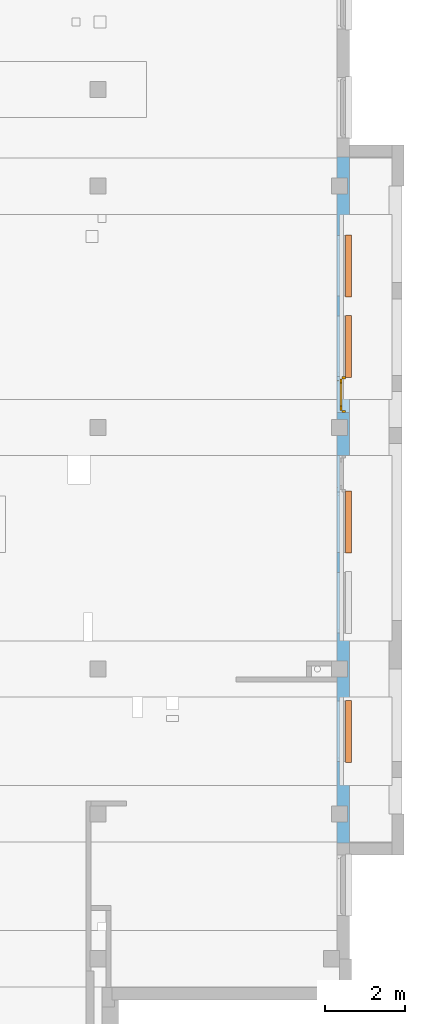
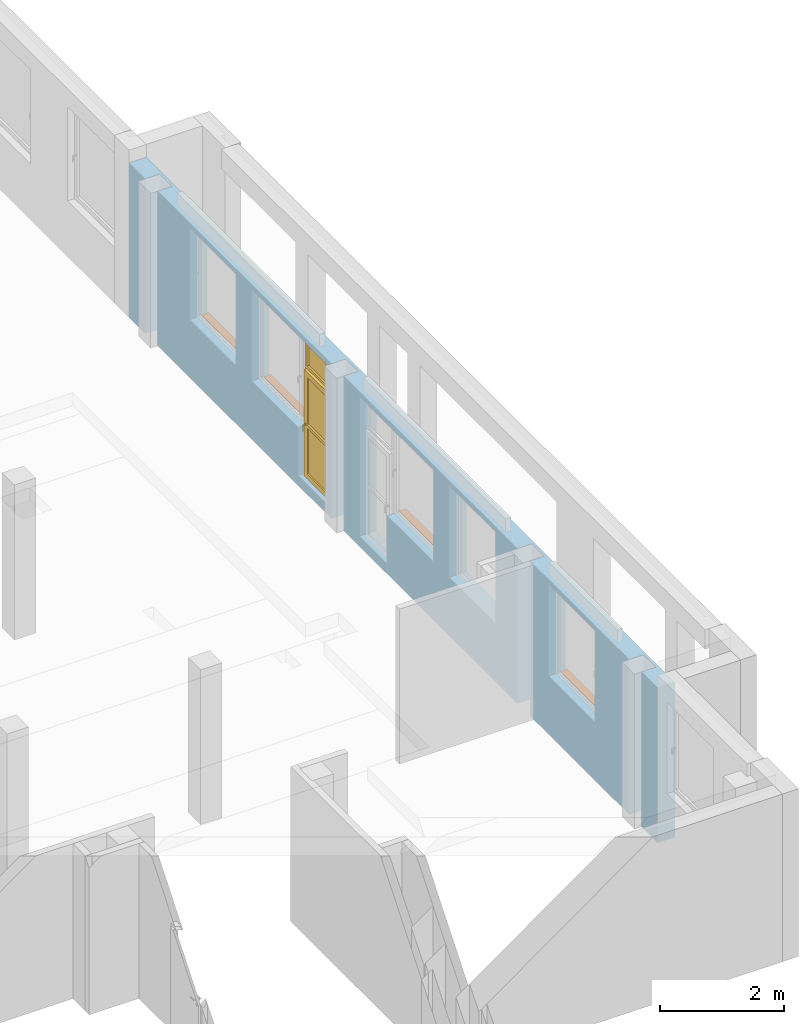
# One storey, part 19 of 27: 4 proxies, 1 door, 7 openings, plus 1 element that does not belong to this part.
"""IFC4 building model written with IfcOpenShell, lengths in metres."""

import ifcopenshell
import ifcopenshell.guid

model = None  # the IFC model being written
_history = None  # IfcOwnerHistory: only IFC2X3 demands one
_inside = {}  # id of a spatial element -> (the spatial element, [elements in it])
_under = {}  # id of a project, library or spatial element -> (it, [spatial elements below it])
_declared = {}  # id of a project -> (the project, [libraries it declares])
_typed = {}  # id of a type object -> (the type object, [elements of that type])
_made_of = {}  # id of a material, layer set ... -> (it, [elements and type objects made of it])


def new_model(schema):
    """Start an empty IFC model of exactly this schema.

    Asked for "IFC4X3", IfcOpenShell would pick the latest addendum, in which some entities
    have other attributes; the version numbers below select the first issue.
    IFC2X3 requires an IfcOwnerHistory on every rooted entity: one is made here for all.
    """
    global model, _history
    if schema == "IFC4X3":
        model = ifcopenshell.file(schema_version=(4, 3, 0, 0))
    else:
        model = ifcopenshell.file(schema=schema)
    _inside.clear()
    _under.clear()
    _declared.clear()
    _typed.clear()
    _made_of.clear()
    _history = None
    if model.schema == "IFC2X3":
        org = make("IfcOrganization", Name="unknown")
        user = make(
            "IfcPersonAndOrganization",
            ThePerson=make("IfcPerson", FamilyName="unknown"),
            TheOrganization=org,
        )
        app = make(
            "IfcApplication",
            ApplicationDeveloper=org,
            Version="unknown",
            ApplicationFullName="unknown",
            ApplicationIdentifier="unknown",
        )
        _history = make(
            "IfcOwnerHistory",
            OwningUser=user,
            OwningApplication=app,
            ChangeAction="ADDED",
            CreationDate=0,
        )
    return model


def make(cls, **values):
    """One entity of the class cls with the attributes given. An attribute that is None is left unset."""
    return model.create_entity(
        cls, **{name: value for name, value in values.items() if value is not None}
    )


def entity(cls, *values):
    """Any entity or typed value of the class cls, its attributes in the order of the schema. None: left unset."""
    e = model.create_entity(cls)
    for i, value in enumerate(values):
        if value is not None:
            e[i] = value
    return e


def rooted(cls, **values):
    """An entity with a GlobalId (a new one), such as an element, a storey or a relation."""
    return make(cls, GlobalId=ifcopenshell.guid.new(), OwnerHistory=_history, **values)


def si_unit(unit_type, name, prefix=None):
    """IfcSIUnit, for example si_unit("LENGTHUNIT", "METRE", prefix="MILLI")."""
    return make("IfcSIUnit", UnitType=unit_type, Prefix=prefix, Name=name)


def converted_unit(unit_type, name, factor, base, dimensions=None, offset=None):
    """IfcConversionBasedUnit, such as the inch: factor (a typed value) times the base unit."""
    return make(
        "IfcConversionBasedUnit"
        if offset is None
        else "IfcConversionBasedUnitWithOffset",
        ConversionOffset=offset,
        Dimensions=None
        if dimensions is None
        else entity("IfcDimensionalExponents", *dimensions),
        UnitType=unit_type,
        Name=name,
        ConversionFactor=make(
            "IfcMeasureWithUnit", ValueComponent=factor, UnitComponent=base
        ),
    )


def derived_unit(unit_type, elements):
    """IfcDerivedUnit: a product of units, each with its exponent."""
    return make(
        "IfcDerivedUnit",
        Elements=[
            make("IfcDerivedUnitElement", Unit=unit, Exponent=power)
            for unit, power in elements
        ],
        UnitType=unit_type,
    )


def assignment(units):
    """IfcUnitAssignment: the units of a project."""
    return None if units is None else make("IfcUnitAssignment", Units=units)


def point(xyz):
    """IfcCartesianPoint."""
    return None if xyz is None else make("IfcCartesianPoint", Coordinates=xyz)


def direction(xyz):
    """IfcDirection."""
    return None if xyz is None else make("IfcDirection", DirectionRatios=xyz)


def frame(location, z_axis=None, x_axis=None):
    """IfcAxis2Placement3D, a coordinate frame: its origin and axes. An axis left out is left unset."""
    return make(
        "IfcAxis2Placement3D",
        Location=point(location),
        Axis=direction(z_axis),
        RefDirection=direction(x_axis),
    )


def origin():
    """The frame at (0, 0, 0) with its axes left unset."""
    return frame((0.0, 0.0, 0.0))


def origin_with_axes():
    """The frame at (0, 0, 0) with the z axis (0, 0, 1) and the x axis (1, 0, 0) written out."""
    return frame((0.0, 0.0, 0.0), z_axis=(0.0, 0.0, 1.0), x_axis=(1.0, 0.0, 0.0))


def place(relative_to, where):
    """IfcLocalPlacement: puts the frame where relative to a parent placement (None: the world)."""
    return make(
        "IfcLocalPlacement", PlacementRelTo=relative_to, RelativePlacement=where
    )


def context(
    kind, dimensions, precision=None, world=None, true_north=None, identifier=None
):
    """IfcGeometricRepresentationContext, for example the 3D "Model" context."""
    return make(
        "IfcGeometricRepresentationContext",
        ContextIdentifier=identifier,
        ContextType=kind,
        CoordinateSpaceDimension=dimensions,
        Precision=precision,
        WorldCoordinateSystem=world,
        TrueNorth=true_north,
    )


def subcontext(parent, identifier, kind, view, scale=None):
    """IfcGeometricRepresentationSubContext, for example "Body" below "Model"."""
    return make(
        "IfcGeometricRepresentationSubContext",
        ContextIdentifier=identifier,
        ContextType=kind,
        ParentContext=parent,
        TargetScale=scale,
        TargetView=view,
    )


def project(units=None, contexts=None):
    """IfcProject with its units and contexts."""
    return rooted(
        "IfcProject",
        Name="project",
        RepresentationContexts=contexts,
        UnitsInContext=assignment(units),
    )


def spatial(cls, under=None, at=None, **own):
    """A site, building, storey or space (cls), placed at a placement, below another one or the project."""
    s = rooted(cls, ObjectPlacement=at, **own)
    if under is not None:
        _under.setdefault(under.id(), (under, []))[1].append(s)
    return s


def polyline(points):
    """IfcPolyline through the points."""
    return make("IfcPolyline", Points=[point(p) for p in points])


def outline(outer, holes=None, kind="AREA"):
    """IfcArbitraryClosedProfileDef: a profile drawn as a closed curve; with holes, ...WithVoids."""
    if holes is None:
        return make("IfcArbitraryClosedProfileDef", ProfileType=kind, OuterCurve=outer)
    return make(
        "IfcArbitraryProfileDefWithVoids",
        ProfileType=kind,
        OuterCurve=outer,
        InnerCurves=holes,
    )


def extrude(swept, where, along, depth):
    """IfcExtrudedAreaSolid: the profile swept, set in the frame where, extruded along a direction by depth."""
    return make(
        "IfcExtrudedAreaSolid",
        SweptArea=swept,
        Position=where,
        ExtrudedDirection=direction(along),
        Depth=depth,
    )


def faces_of(points, faces, orient=None, outer=None):
    """IfcFace entities. A face is a list of loops; a loop is a list of indices into points, from 0.

    orient and outer hold one flag for each loop. By default every Orientation is true, the
    first loop of a face is its IfcFaceOuterBound and the others are IfcFaceBound.
    """
    made = []
    for i, loops in enumerate(faces):
        bounds = []
        for j, loop in enumerate(loops):
            is_outer = j == 0 if outer is None else outer[i][j]
            bounds.append(
                make(
                    "IfcFaceOuterBound" if is_outer else "IfcFaceBound",
                    Bound=make("IfcPolyLoop", Polygon=[points[k] for k in loop]),
                    Orientation=True if orient is None else orient[i][j],
                )
            )
        made.append(make("IfcFace", Bounds=bounds))
    return made


def closed_shell(faces, orient=None, outer=None):
    """The faces of one IfcClosedShell. faceted_brep and surface_model build it on their shared points."""
    return ("IfcClosedShell", faces, orient, outer)


def open_shell(faces, orient=None, outer=None):
    """The faces of one IfcOpenShell. surface_model builds it on its shared points."""
    return ("IfcOpenShell", faces, orient, outer)


def faceted_brep(points, faces, orient=None, outer=None, voids=None):
    """IfcFacetedBrep: a solid bounded by flat faces; with voids (closed shells), ...WithVoids."""
    shared = [point(p) for p in points]
    hull = make("IfcClosedShell", CfsFaces=faces_of(shared, faces, orient, outer))
    if voids is None:
        return make("IfcFacetedBrep", Outer=hull)
    return make(
        "IfcFacetedBrepWithVoids",
        Outer=hull,
        Voids=[
            make(cls, CfsFaces=faces_of(shared, fs, o, b)) for cls, fs, o, b in voids
        ],
    )


def surface_model(cls, points, shells):
    """IfcFaceBasedSurfaceModel or IfcShellBasedSurfaceModel (cls): surfaces that need not close."""
    shared = [point(p) for p in points]
    made = [make(c, CfsFaces=faces_of(shared, fs, o, b)) for c, fs, o, b in shells]
    if cls == "IfcFaceBasedSurfaceModel":
        return make(cls, FbsmFaces=made)
    return make(cls, SbsmBoundary=made)


def shape(context_of_items, identifier, shape_type, items):
    """IfcShapeRepresentation: the items that make up one representation, for example the "Body"."""
    return make(
        "IfcShapeRepresentation",
        ContextOfItems=context_of_items,
        RepresentationIdentifier=identifier,
        RepresentationType=shape_type,
        Items=items,
    )


def source(mapping_origin, context_of_items, identifier, shape_type, items):
    """IfcRepresentationMap: a shape defined once, which mapped items show again and again."""
    return make(
        "IfcRepresentationMap",
        MappingOrigin=mapping_origin,
        MappedRepresentation=shape(context_of_items, identifier, shape_type, items),
    )


def transform(
    local_origin,
    x_axis=None,
    y_axis=None,
    z_axis=None,
    scale=None,
    scale2=None,
    scale3=None,
    uniform=True,
):
    """IfcCartesianTransformationOperator3D, or its non-uniform kind. x_axis, y_axis, z_axis: its Axis1, 2, 3."""
    if uniform:
        return make(
            "IfcCartesianTransformationOperator3D",
            Axis1=direction(x_axis),
            Axis2=direction(y_axis),
            LocalOrigin=point(local_origin),
            Scale=scale,
            Axis3=direction(z_axis),
        )
    return make(
        "IfcCartesianTransformationOperator3DnonUniform",
        Axis1=direction(x_axis),
        Axis2=direction(y_axis),
        LocalOrigin=point(local_origin),
        Scale=scale,
        Axis3=direction(z_axis),
        Scale2=scale2,
        Scale3=scale3,
    )


def mapped(mapping_source, mapping_target):
    """IfcMappedItem: shows the shape of a source again, moved by a transform."""
    return make(
        "IfcMappedItem", MappingSource=mapping_source, MappingTarget=mapping_target
    )


def material(Name=None, Category=None):
    """IfcMaterial."""
    return make("IfcMaterial", Name=Name, Category=Category)


def layer(
    of_material, thickness, ventilated=None, Name=None, Category=None, Priority=None
):
    """IfcMaterialLayer: one layer of a wall or slab, of a material (None: an air gap)."""
    return make(
        "IfcMaterialLayer",
        Material=of_material,
        LayerThickness=thickness,
        IsVentilated=ventilated,
        Name=Name,
        Category=Category,
        Priority=Priority,
    )


def layer_set(layers, Name=None):
    """IfcMaterialLayerSet."""
    return make("IfcMaterialLayerSet", MaterialLayers=layers, LayerSetName=Name)


def layer_usage(for_layer_set, set_direction, sense, offset, extent=None):
    """IfcMaterialLayerSetUsage: how a layer set lies in its element."""
    return make(
        "IfcMaterialLayerSetUsage",
        ForLayerSet=for_layer_set,
        LayerSetDirection=set_direction,
        DirectionSense=sense,
        OffsetFromReferenceLine=offset,
        ReferenceExtent=extent,
    )


def made_of(thing, what):
    """Note that an element or type object is made of a material, layer set ...; save() writes the relation."""
    if what is not None:
        _made_of.setdefault(what.id(), (what, []))[1].append(thing)
    return thing


def type_object(cls, material=None, **own):
    """A type object (cls), such as IfcWallType, which elements share."""
    return made_of(rooted(cls, **own), material)


def element(
    cls,
    number,
    at=None,
    inside=None,
    cuts=None,
    type_object=None,
    material=None,
    context=None,
    identifier="Body",
    shape_type=None,
    held_by="IfcProductDefinitionShape",
    body=None,
    shapes=None,
    **own,
):
    """One element of the class cls, such as IfcWall. Its Tag is "e" and its number.

    at: its placement. inside: the storey or other place that contains it. cuts: it is an
    opening in that element (IfcRelVoidsElement). A single representation is given by context,
    identifier, shape_type and body (its items); several are given by shapes. held_by: the class
    of the entity that holds the representations. save() writes the other relations.
    """
    e = rooted(cls, Tag="e%d" % number, ObjectPlacement=at, **own)
    if body is not None:
        shapes = [shape(context, identifier, shape_type, body)]
    if shapes is not None:
        e.Representation = make(held_by, Representations=shapes)
    if inside is not None:
        _inside.setdefault(inside.id(), (inside, []))[1].append(e)
    if cuts is not None:
        rooted(
            "IfcRelVoidsElement", RelatingBuildingElement=cuts, RelatedOpeningElement=e
        )
    if type_object is not None:
        _typed.setdefault(type_object.id(), (type_object, []))[1].append(e)
    return made_of(e, material)


def fill(opening, filler):
    """IfcRelFillsElement: the door or window that sits in an opening."""
    return rooted(
        "IfcRelFillsElement",
        RelatingOpeningElement=opening,
        RelatedBuildingElement=filler,
    )


def aggregate(whole, parts):
    """IfcRelAggregates: a whole, such as a stair, and the parts it consists of."""
    return rooted("IfcRelAggregates", RelatingObject=whole, RelatedObjects=parts)


def save(model, path):
    """Write the relations noted so far, then the file.

    IfcRelAggregates (storeys below a building ...), IfcRelContainedInSpatialStructure (elements
    in a storey), IfcRelDefinesByType, IfcRelAssociatesMaterial and IfcRelDeclares: one each for
    every whole, place, type object, material and project.
    """
    for whole, parts in _under.values():
        aggregate(whole, parts)
    for where, things in _inside.values():
        rooted(
            "IfcRelContainedInSpatialStructure",
            RelatedElements=things,
            RelatingStructure=where,
        )
    for kind, things in _typed.values():
        rooted("IfcRelDefinesByType", RelatedObjects=things, RelatingType=kind)
    for what, things in _made_of.values():
        rooted("IfcRelAssociatesMaterial", RelatedObjects=things, RelatingMaterial=what)
    for by, libraries in _declared.values():
        rooted("IfcRelDeclares", RelatingContext=by, RelatedDefinitions=libraries)
    model.write(path)


model = new_model("IFC4")

# Units and contexts
model_context = context("Model", 3, precision=1e-05, world=origin())
body_context = subcontext(model_context, "Body", "Model", "MODEL_VIEW")
ifc_project = project(units=[si_unit("LENGTHUNIT", "METRE"), si_unit("AREAUNIT", "SQUARE_METRE"), si_unit("VOLUMEUNIT", "CUBIC_METRE"), si_unit("MASSUNIT", "GRAM", prefix="KILO"), converted_unit("PLANEANGLEUNIT", "DEGREE", entity("IfcPlaneAngleMeasure", 0.0174532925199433), si_unit("PLANEANGLEUNIT", "RADIAN"), dimensions=[0, 0, 0, 0, 0, 0, 0]), derived_unit("THERMALTRANSMITTANCEUNIT", [(si_unit("POWERUNIT", "WATT"), 1), (si_unit("THERMODYNAMICTEMPERATUREUNIT", "KELVIN"), -1), (si_unit("LENGTHUNIT", "METRE"), -2)]), derived_unit("VOLUMETRICFLOWRATEUNIT", [(si_unit("LENGTHUNIT", "METRE"), 3), (converted_unit("TIMEUNIT", "hour", entity("IfcTimeMeasure", 3600.0), si_unit("TIMEUNIT", "SECOND"), dimensions=[0, 0, 1, 0, 0, 0, 0]), -1), (si_unit("LENGTHUNIT", "METRE"), -1)])], contexts=[model_context])

# Site, building, storey
site_placement = place(None, origin())
site = spatial("IfcSite", under=ifc_project, at=site_placement, Name="3. ASŘ", CompositionType="ELEMENT")
building_placement = place(site_placement, origin())
building = spatial("IfcBuilding", under=site, at=building_placement, Name="Pavilon C", CompositionType="ELEMENT")
storey_placement = place(building_placement, frame((0.0, 0.0, 10.5)))
storey = spatial("IfcBuildingStorey", under=building, at=storey_placement, Name="Půdorys 4.NP", CompositionType="ELEMENT", Elevation=10.5)

# Wall, openings, door, proxies
ifc_material_1 = material(Name="PLYNOSILIKÁT")
ifc_layer = layer(ifc_material_1, 0.32)
ifc_layer_set = layer_set([ifc_layer])
ifc_layer_usage = layer_usage(ifc_layer_set, "AXIS2", "POSITIVE", 0.0)
wall_placement = place(storey_placement, frame((50.2, 2.88, -0.1), z_axis=(0.0, 0.0, 1.0), x_axis=(0.0, 1.0, 0.0)))
wall = element("IfcWall", 1, at=wall_placement, inside=storey, material=ifc_layer_usage, Name="PLYNOSILIKÁT", context=body_context, shape_type="SweptSolid", body=[
    extrude(outline(polyline([(0.0, -0.32), (17.04, -0.32), (17.04, 0.0), (16.52, 0.0), (16.52, -0.27), (16.12, -0.27), (16.12, 0.0), (10.52, 0.0), (10.52, -0.27), (10.12, -0.27), (10.12, 0.0), (4.52, 0.0), (4.52, -0.27), (4.12, -0.27), (4.12, 0.0), (0.919999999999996, 0.0), (0.919999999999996, -0.27), (0.519999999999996, -0.27), (0.519999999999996, 0.0), (0.0, 0.0), (0.0, -0.32)])), frame((0.0, 0.32, 0.0), z_axis=(0.0, 0.0, 1.0), x_axis=(1.0, 0.0, 0.0)), (0.0, 0.0, 1.0), 3.05),
])
opening_1_placement = place(wall_placement, frame((2.02, 0.0, 1.15), z_axis=(0.0, 1.0, 0.0), x_axis=(0.0, 0.0, 1.0)))
opening_1 = element("IfcOpeningElement", 2, at=opening_1_placement, cuts=wall, Name="Okenní otvor", ObjectType="Opening", context=body_context, shape_type="SweptSolid", body=[
    extrude(outline(polyline([(0.0, 1.5), (1.8, 1.5), (1.8, 0.0), (0.0, 0.0), (0.0, 1.5)])), origin_with_axes(), (0.0, 0.0, 1.0), 0.32),
])
opening_2_placement = place(wall_placement, frame((13.59, 0.0, 1.15), z_axis=(0.0, 1.0, 0.0), x_axis=(0.0, 0.0, 1.0)))
opening_2 = element("IfcOpeningElement", 3, at=opening_2_placement, cuts=wall, Name="Okenní otvor", ObjectType="Opening", context=body_context, shape_type="SweptSolid", body=[
    extrude(outline(polyline([(0.0, 1.5), (1.8, 1.5), (1.8, 0.0), (0.0, 0.0), (0.0, 1.5)])), origin_with_axes(), (0.0, 0.0, 1.0), 0.32),
])
opening_3_placement = place(wall_placement, frame((10.69, 0.0, 0.2), z_axis=(0.0, 1.0, 0.0), x_axis=(0.0, 0.0, 1.0)))
opening_3 = element("IfcOpeningElement", 4, at=opening_3_placement, cuts=wall, Name="Dveřní otvor", ObjectType="Opening", context=body_context, shape_type="SweptSolid", body=[
    extrude(outline(polyline([(0.0, 0.9), (2.75, 0.9), (2.75, 0.0), (0.0, 0.0), (0.0, 0.9)])), origin_with_axes(), (0.0, 0.0, 1.0), 0.32),
])
opening_4_placement = place(wall_placement, frame((11.59, 0.0, 1.15), z_axis=(0.0, 1.0, 0.0), x_axis=(0.0, 0.0, 1.0)))
opening_4 = element("IfcOpeningElement", 5, at=opening_4_placement, cuts=wall, Name="Okenní otvor", ObjectType="Opening", context=body_context, shape_type="SweptSolid", body=[
    extrude(outline(polyline([(0.0, 1.5), (1.8, 1.5), (1.8, 0.0), (0.0, 0.0), (0.0, 1.5)])), origin_with_axes(), (0.0, 0.0, 1.0), 0.32),
])
opening_5_placement = place(wall_placement, frame((7.21999999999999, 0.0, 1.15), z_axis=(0.0, 1.0, 0.0), x_axis=(0.0, 0.0, 1.0)))
opening_5 = element("IfcOpeningElement", 6, at=opening_5_placement, cuts=wall, Name="Okenní otvor", ObjectType="Opening", context=body_context, shape_type="SweptSolid", body=[
    extrude(outline(polyline([(0.0, 1.5), (1.8, 1.5), (1.8, 0.0), (0.0, 0.0), (0.0, 1.5)])), origin_with_axes(), (0.0, 0.0, 1.0), 0.32),
])
opening_6_placement = place(wall_placement, frame((8.71999999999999, 0.0, 0.2), z_axis=(0.0, 1.0, 0.0), x_axis=(0.0, 0.0, 1.0)))
element("IfcOpeningElement", 7, at=opening_6_placement, cuts=wall, Name="Dveřní otvor", ObjectType="Opening", context=body_context, shape_type="SweptSolid", body=[
    extrude(outline(polyline([(0.0, 0.9), (2.75, 0.9), (2.75, 0.0), (0.0, 0.0), (0.0, 0.9)])), origin_with_axes(), (0.0, 0.0, 1.0), 0.32),
])
opening_7_placement = place(wall_placement, frame((5.21999999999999, 0.0, 1.15), z_axis=(0.0, 1.0, 0.0), x_axis=(0.0, 0.0, 1.0)))
element("IfcOpeningElement", 8, at=opening_7_placement, cuts=wall, Name="Okenní otvor", ObjectType="Opening", context=body_context, shape_type="SweptSolid", body=[
    extrude(outline(polyline([(0.0, 1.5), (1.8, 1.5), (1.8, 0.0), (0.0, 0.0), (0.0, 1.5)])), origin_with_axes(), (0.0, 0.0, 1.0), 0.32),
])
door_type = type_object("IfcDoorType", Name="D701", OperationType="NOTDEFINED", ParameterTakesPrecedence=False, PredefinedType="DOOR")
shared_shape_1 = source(origin_with_axes(), body_context, "Body", "SurfaceModel", [
    surface_model("IfcShellBasedSurfaceModel", [(0.0, 0.0920000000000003, 2.75), (0.0, 0.092, 8.57747943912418e-18), (0.06, 0.092, 8.57747943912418e-18), (0.06, 0.0920000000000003, 2.75), (0.0, 0.0, 1.98442299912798e-17), (0.0, 3.41060513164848e-16, 2.75), (0.06, 3.41060513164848e-16, 2.75), (0.06, 0.0, 1.98442299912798e-17)], [closed_shell([[[0, 1, 2, 3]], [[4, 5, 6, 7]], [[1, 0, 5, 4]], [[2, 1, 4, 7]], [[3, 2, 7, 6]], [[0, 3, 6, 5]]], orient=[[False], [False], [False], [False], [False], [False]])]),
    surface_model("IfcShellBasedSurfaceModel", [(0.84, 0.0920000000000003, 2.75), (0.84, 0.092, 8.57747943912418e-18), (0.9, 0.092, 8.57747943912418e-18), (0.9, 0.0920000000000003, 2.75), (0.84, 0.0, 1.98442299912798e-17), (0.84, 3.41060513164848e-16, 2.75), (0.9, 3.41060513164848e-16, 2.75), (0.9, 0.0, 1.98442299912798e-17)], [closed_shell([[[0, 1, 2, 3]], [[4, 5, 6, 7]], [[1, 0, 5, 4]], [[2, 1, 4, 7]], [[3, 2, 7, 6]], [[0, 3, 6, 5]]], orient=[[False], [False], [False], [False], [False], [False]])]),
    surface_model("IfcShellBasedSurfaceModel", [(0.06, 0.0920000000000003, 2.75), (0.06, 0.0920000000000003, 2.69), (0.84, 0.0920000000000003, 2.69), (0.84, 0.0920000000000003, 2.75), (0.06, 3.26849658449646e-16, 2.69), (0.06, 3.41060513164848e-16, 2.75), (0.84, 3.41060513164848e-16, 2.75), (0.84, 3.26849658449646e-16, 2.69)], [closed_shell([[[0, 1, 2, 3]], [[4, 5, 6, 7]], [[1, 0, 5, 4]], [[2, 1, 4, 7]], [[3, 2, 7, 6]], [[0, 3, 6, 5]]], orient=[[False], [False], [False], [False], [False], [False]])]),
    surface_model("IfcShellBasedSurfaceModel", [(0.06, 0.0920000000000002, 2.15), (0.06, 0.0920000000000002, 2.1), (0.84, 0.0920000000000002, 2.1), (0.84, 0.0920000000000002, 2.15), (0.06, 2.55795384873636e-16, 2.1), (0.06, 2.55795384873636e-16, 2.15), (0.84, 2.55795384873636e-16, 2.15), (0.84, 2.55795384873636e-16, 2.1)], [closed_shell([[[0, 1, 2, 3]], [[4, 5, 6, 7]], [[1, 0, 5, 4]], [[2, 1, 4, 7]], [[3, 2, 7, 6]], [[0, 3, 6, 5]]], orient=[[False], [False], [False], [False], [False], [False]])]),
    surface_model("IfcShellBasedSurfaceModel", [(0.06, 0.142, 2.1), (0.06, 0.142, 2.45424544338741e-18), (0.16, 0.142, 2.45424544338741e-18), (0.16, 0.142, 2.1), (0.06, 0.092, 8.57747943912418e-18), (0.06, 0.0920000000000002, 2.1), (0.16, 0.0920000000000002, 2.1), (0.16, 0.092, 8.57747943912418e-18)], [closed_shell([[[0, 1, 2, 3]], [[4, 5, 6, 7]], [[1, 0, 5, 4]], [[2, 1, 4, 7]], [[3, 2, 7, 6]], [[0, 3, 6, 5]]], orient=[[False], [False], [False], [False], [False], [False]])]),
    surface_model("IfcShellBasedSurfaceModel", [(0.74, 0.142, 2.1), (0.74, 0.142, 2.45424544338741e-18), (0.84, 0.142, 2.45424544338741e-18), (0.84, 0.142, 2.1), (0.74, 0.092, 8.57747943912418e-18), (0.74, 0.0920000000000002, 2.1), (0.84, 0.0920000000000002, 2.1), (0.84, 0.092, 8.57747943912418e-18)], [closed_shell([[[0, 1, 2, 3]], [[4, 5, 6, 7]], [[1, 0, 5, 4]], [[2, 1, 4, 7]], [[3, 2, 7, 6]], [[0, 3, 6, 5]]], orient=[[False], [False], [False], [False], [False], [False]])]),
    surface_model("IfcShellBasedSurfaceModel", [(0.16, 0.142, 0.1), (0.16, 0.142, 2.45424544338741e-18), (0.74, 0.142, 2.45424544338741e-18), (0.74, 0.142, 0.1), (0.16, 0.092, 8.57747943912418e-18), (0.16, 0.092, 0.1), (0.74, 0.092, 0.1), (0.74, 0.092, 8.57747943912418e-18)], [closed_shell([[[0, 1, 2, 3]], [[4, 5, 6, 7]], [[1, 0, 5, 4]], [[2, 1, 4, 7]], [[3, 2, 7, 6]], [[0, 3, 6, 5]]], orient=[[False], [False], [False], [False], [False], [False]])]),
    surface_model("IfcShellBasedSurfaceModel", [(0.16, 0.142, 2.1), (0.16, 0.142, 2.0), (0.74, 0.142, 2.0), (0.74, 0.142, 2.1), (0.16, 0.0920000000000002, 2.0), (0.16, 0.0920000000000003, 2.1), (0.74, 0.0920000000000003, 2.1), (0.74, 0.0920000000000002, 2.0)], [closed_shell([[[0, 1, 2, 3]], [[4, 5, 6, 7]], [[1, 0, 5, 4]], [[2, 1, 4, 7]], [[3, 2, 7, 6]], [[0, 3, 6, 5]]], orient=[[False], [False], [False], [False], [False], [False]])]),
    surface_model("IfcShellBasedSurfaceModel", [(0.7775, 0.142, 1.07), (0.8025, 0.142, 1.07), (0.8025, 0.142, 1.03), (0.7775, 0.142, 1.03), (0.7775, 0.152, 1.03), (0.8025, 0.152, 1.03), (0.8025, 0.152, 1.07), (0.7775, 0.152, 1.07)], [closed_shell([[[0, 1, 2, 3]], [[4, 5, 6, 7]], [[3, 4, 7, 0]], [[2, 5, 4, 3]], [[1, 6, 5, 2]], [[0, 7, 6, 1]]], orient=[[False], [False], [False], [False], [False], [False]])]),
    surface_model("IfcShellBasedSurfaceModel", [(0.8, 0.152, 1.05), (0.798660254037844, 0.152, 1.045), (0.795, 0.152, 1.04133974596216), (0.79, 0.152, 1.04), (0.785, 0.152, 1.04133974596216), (0.781339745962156, 0.152, 1.045), (0.78, 0.152, 1.05), (0.781339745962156, 0.152, 1.055), (0.785, 0.152, 1.05866025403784), (0.79, 0.152, 1.06), (0.795, 0.152, 1.05866025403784), (0.798660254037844, 0.152, 1.055), (0.798660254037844, 0.197, 1.055), (0.8, 0.192, 1.05), (0.795, 0.200660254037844, 1.05866025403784), (0.79, 0.202, 1.06), (0.785, 0.200660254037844, 1.05866025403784), (0.781339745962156, 0.197, 1.055), (0.78, 0.192, 1.05), (0.781339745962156, 0.187, 1.045), (0.785, 0.183339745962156, 1.04133974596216), (0.79, 0.182, 1.04), (0.795, 0.183339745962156, 1.04133974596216), (0.798660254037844, 0.187, 1.045), (0.798660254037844, 0.197, 0.935), (0.8, 0.192, 0.935), (0.795, 0.200660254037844, 0.935), (0.79, 0.202, 0.935), (0.785, 0.200660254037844, 0.935), (0.781339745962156, 0.197, 0.935), (0.78, 0.192, 0.935), (0.781339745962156, 0.187, 0.935), (0.785, 0.183339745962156, 0.935), (0.79, 0.182, 0.935), (0.795, 0.183339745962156, 0.935), (0.798660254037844, 0.187, 0.935)], [open_shell([[[0, 1, 2, 3, 4, 5, 6, 7, 8, 9, 10, 11]], [[0, 11, 12, 13]], [[11, 10, 14, 12]], [[10, 9, 15, 14]], [[9, 8, 16, 15]], [[8, 7, 17, 16]], [[7, 6, 18, 17]], [[6, 5, 19, 18]], [[5, 4, 20, 19]], [[4, 3, 21, 20]], [[3, 2, 22, 21]], [[2, 1, 23, 22]], [[1, 0, 13, 23]], [[13, 12, 24, 25]], [[12, 14, 26, 24]], [[14, 15, 27, 26]], [[15, 16, 28, 27]], [[16, 17, 29, 28]], [[17, 18, 30, 29]], [[18, 19, 31, 30]], [[19, 20, 32, 31]], [[20, 21, 33, 32]], [[21, 22, 34, 33]], [[22, 23, 35, 34]], [[23, 13, 25, 35]]], orient=[[False], [False], [False], [False], [False], [False], [False], [False], [False], [False], [False], [False], [False], [False], [False], [False], [False], [False], [False], [False], [False], [False], [False], [False], [False]])]),
    surface_model("IfcShellBasedSurfaceModel", [(0.06, 0.0560000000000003, 2.69), (0.06, 0.0560000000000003, 2.15), (0.84, 0.0560000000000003, 2.15), (0.84, 0.0560000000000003, 2.69), (0.06, 0.0360000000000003, 2.15), (0.06, 0.0360000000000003, 2.69), (0.84, 0.0360000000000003, 2.69), (0.84, 0.0360000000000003, 2.15)], [closed_shell([[[0, 1, 2, 3]], [[4, 5, 6, 7]], [[1, 0, 5, 4]], [[2, 1, 4, 7]], [[3, 2, 7, 6]], [[0, 3, 6, 5]]], orient=[[False], [False], [False], [False], [False], [False]])]),
    surface_model("IfcShellBasedSurfaceModel", [(0.16, 0.152, 1.08), (0.16, 0.152, 1.02), (0.74, 0.152, 1.02), (0.74, 0.152, 1.08), (0.16, 0.0820000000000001, 1.02), (0.16, 0.0820000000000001, 1.08), (0.74, 0.0820000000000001, 1.08), (0.74, 0.0820000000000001, 1.02)], [closed_shell([[[0, 1, 2, 3]], [[4, 5, 6, 7]], [[1, 0, 5, 4]], [[2, 1, 4, 7]], [[3, 2, 7, 6]], [[0, 3, 6, 5]]], orient=[[False], [False], [False], [False], [False], [False]])]),
    surface_model("IfcShellBasedSurfaceModel", [(0.16, 0.117, 0.1), (0.74, 0.117, 0.1), (0.74, 0.117, 1.02), (0.16, 0.117, 1.02)], [open_shell([[[0, 1, 2, 3]]], orient=[[False]])]),
    surface_model("IfcShellBasedSurfaceModel", [(0.16, 0.117, 1.08), (0.74, 0.117, 1.08), (0.74, 0.117, 2.0), (0.16, 0.117, 2.0)], [open_shell([[[0, 1, 2, 3]]], orient=[[False]])]),
])
door_placement = place(opening_3_placement, frame((0.0, -1.81898940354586e-15, 0.100000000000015), z_axis=(1.0, 0.0, 0.0), x_axis=(0.0, 1.0, -1.22464679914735e-16)))
door = element("IfcDoor", 9, at=door_placement, inside=storey, type_object=door_type, Name="D701", OverallHeight=2.75, OverallWidth=0.9, context=body_context, shape_type="MappedRepresentation", body=[
    mapped(shared_shape_1, transform((0.0, 0.0, 0.0), x_axis=(1.0, 0.0, 0.0), y_axis=(0.0, 1.0, 0.0), z_axis=(0.0, 0.0, 1.0), scale=1.0)),
])
fill(opening_3, door)
ifc_material_2 = material(Name="PLECH")
shared_shape_2 = source(origin_with_axes(), body_context, "Body", "Brep", [
    faceted_brep([(-1.81898940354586e-15, 1.45519152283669e-14, 0.0), (-1.81898940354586e-15, 0.100000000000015, 0.0), (-1.81898940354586e-15, 0.100000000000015, 0.005), (-1.81898940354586e-15, 1.45519152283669e-14, 0.005), (1.5, 1.45519152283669e-14, 0.0), (1.5, 1.45519152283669e-14, 0.005), (1.5, 0.100000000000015, 0.005), (1.5, 0.100000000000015, 0.0), (-0.0200000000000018, 1.45519152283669e-14, 0.0), (-0.0200000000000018, -0.0349999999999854, 0.0), (1.52, -0.0349999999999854, 0.0), (1.52, 1.45519152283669e-14, 0.0), (1.52, 1.45519152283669e-14, 0.005), (1.52, -0.0399999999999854, 0.005), (-0.0200000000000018, -0.0399999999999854, 0.005), (-0.0200000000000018, 1.45519152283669e-14, 0.005), (-0.0200000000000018, -0.0399999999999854, -0.025), (-0.0200000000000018, -0.0349999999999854, -0.025), (1.52, -0.0349999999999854, -0.025), (1.52, -0.0399999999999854, -0.025)], [[[0, 1, 2, 3]], [[4, 5, 6, 7]], [[1, 0, 8, 9, 10, 11, 4, 7]], [[2, 1, 7, 6]], [[3, 2, 6, 5, 12, 13, 14, 15]], [[8, 15, 14, 16, 17, 9]], [[11, 10, 18, 19, 13, 12]], [[15, 8, 0, 3]], [[5, 4, 11, 12]], [[16, 14, 13, 19]], [[17, 16, 19, 18]], [[9, 17, 18, 10]]], orient=[[False], [False], [False], [False], [False], [False], [False], [False], [False], [False], [False], [False]]),
    faceted_brep([(-0.0200000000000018, 1.45519152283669e-14, 0.0), (-0.0200000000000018, 0.100000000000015, 0.0), (-0.0200000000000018, 0.100000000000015, 0.005), (-0.0200000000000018, 1.45519152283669e-14, 0.005), (-1.81898940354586e-15, 1.45519152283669e-14, 0.0), (-1.81898940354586e-15, 1.45519152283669e-14, 0.005), (-1.81898940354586e-15, 0.100000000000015, 0.005), (-1.81898940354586e-15, 0.100000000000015, 0.0)], [[[0, 1, 2, 3]], [[4, 5, 6, 7]], [[1, 0, 4, 7]], [[2, 1, 7, 6]], [[3, 2, 6, 5]], [[0, 3, 5, 4]]], orient=[[False], [False], [False], [False], [False], [False]]),
    faceted_brep([(1.5, 1.45519152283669e-14, 0.0), (1.5, 0.100000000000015, 0.0), (1.5, 0.100000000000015, 0.005), (1.5, 1.45519152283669e-14, 0.005), (1.52, 1.45519152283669e-14, 0.0), (1.52, 1.45519152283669e-14, 0.005), (1.52, 0.100000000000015, 0.005), (1.52, 0.100000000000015, 0.0)], [[[0, 1, 2, 3]], [[4, 5, 6, 7]], [[1, 0, 4, 7]], [[2, 1, 7, 6]], [[3, 2, 6, 5]], [[0, 3, 5, 4]]], orient=[[False], [False], [False], [False], [False], [False]]),
])
proxy_1_placement = place(opening_1_placement, frame((0.0, 0.0, 0.0), z_axis=(1.0, 0.0, 0.0), x_axis=(0.0, 1.0, 0.0)))
proxy_1 = element("IfcBuildingElementProxy", 10, at=proxy_1_placement, inside=storey, material=ifc_material_2, Name="Parapet vnější", context=body_context, shape_type="MappedRepresentation", body=[
    mapped(shared_shape_2, transform((0.0, 0.0, 0.0), x_axis=(1.0, 0.0, 0.0), y_axis=(0.0, 1.0, 0.0), z_axis=(0.0, 0.0, 1.0), scale=1.0)),
])
fill(opening_1, proxy_1)
ifc_material_3 = material(Name="PLECH")
shared_shape_3 = source(origin_with_axes(), body_context, "Body", "Brep", [
    faceted_brep([(-7.27595761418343e-15, 1.45519152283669e-14, 0.0), (-7.27595761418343e-15, 0.100000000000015, 0.0), (-7.27595761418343e-15, 0.100000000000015, 0.005), (-7.27595761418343e-15, 1.45519152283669e-14, 0.005), (1.49999999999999, 1.45519152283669e-14, 0.0), (1.49999999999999, 1.45519152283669e-14, 0.005), (1.49999999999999, 0.100000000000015, 0.005), (1.49999999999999, 0.100000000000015, 0.0), (-0.0200000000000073, 1.45519152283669e-14, 0.0), (-0.0200000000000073, -0.0349999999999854, 0.0), (1.51999999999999, -0.0349999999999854, 0.0), (1.51999999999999, 1.45519152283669e-14, 0.0), (1.51999999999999, 1.45519152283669e-14, 0.005), (1.51999999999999, -0.0399999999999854, 0.005), (-0.0200000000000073, -0.0399999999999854, 0.005), (-0.0200000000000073, 1.45519152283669e-14, 0.005), (-0.0200000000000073, -0.0399999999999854, -0.025), (-0.0200000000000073, -0.0349999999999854, -0.025), (1.51999999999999, -0.0349999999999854, -0.025), (1.51999999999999, -0.0399999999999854, -0.025)], [[[0, 1, 2, 3]], [[4, 5, 6, 7]], [[1, 0, 8, 9, 10, 11, 4, 7]], [[2, 1, 7, 6]], [[3, 2, 6, 5, 12, 13, 14, 15]], [[8, 15, 14, 16, 17, 9]], [[11, 10, 18, 19, 13, 12]], [[15, 8, 0, 3]], [[5, 4, 11, 12]], [[16, 14, 13, 19]], [[17, 16, 19, 18]], [[9, 17, 18, 10]]], orient=[[False], [False], [False], [False], [False], [False], [False], [False], [False], [False], [False], [False]]),
    faceted_brep([(-0.0200000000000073, 1.45519152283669e-14, 0.0), (-0.0200000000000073, 0.100000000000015, 0.0), (-0.0200000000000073, 0.100000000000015, 0.005), (-0.0200000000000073, 1.45519152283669e-14, 0.005), (-7.27595761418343e-15, 1.45519152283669e-14, 0.0), (-7.27595761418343e-15, 1.45519152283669e-14, 0.005), (-7.27595761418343e-15, 0.100000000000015, 0.005), (-7.27595761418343e-15, 0.100000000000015, 0.0)], [[[0, 1, 2, 3]], [[4, 5, 6, 7]], [[1, 0, 4, 7]], [[2, 1, 7, 6]], [[3, 2, 6, 5]], [[0, 3, 5, 4]]], orient=[[False], [False], [False], [False], [False], [False]]),
    faceted_brep([(1.49999999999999, 1.45519152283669e-14, 0.0), (1.49999999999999, 0.100000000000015, 0.0), (1.49999999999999, 0.100000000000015, 0.005), (1.49999999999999, 1.45519152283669e-14, 0.005), (1.51999999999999, 1.45519152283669e-14, 0.0), (1.51999999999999, 1.45519152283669e-14, 0.005), (1.51999999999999, 0.100000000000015, 0.005), (1.51999999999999, 0.100000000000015, 0.0)], [[[0, 1, 2, 3]], [[4, 5, 6, 7]], [[1, 0, 4, 7]], [[2, 1, 7, 6]], [[3, 2, 6, 5]], [[0, 3, 5, 4]]], orient=[[False], [False], [False], [False], [False], [False]]),
])
proxy_2_placement = place(opening_2_placement, frame((0.0, 0.0, 0.0), z_axis=(1.0, 0.0, 0.0), x_axis=(0.0, 1.0, 0.0)))
proxy_2 = element("IfcBuildingElementProxy", 11, at=proxy_2_placement, inside=storey, material=ifc_material_3, Name="Parapet vnější", context=body_context, shape_type="MappedRepresentation", body=[
    mapped(shared_shape_3, transform((0.0, 0.0, 0.0), x_axis=(1.0, 0.0, 0.0), y_axis=(0.0, 1.0, 0.0), z_axis=(0.0, 0.0, 1.0), scale=1.0)),
])
fill(opening_2, proxy_2)
ifc_material_4 = material(Name="PLECH")
shared_shape_4 = source(origin_with_axes(), body_context, "Body", "Brep", [
    faceted_brep([(-3.63797880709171e-15, 1.45519152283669e-14, 0.0), (-3.63797880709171e-15, 0.100000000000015, 0.0), (-3.63797880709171e-15, 0.100000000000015, 0.005), (-3.63797880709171e-15, 1.45519152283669e-14, 0.005), (1.5, 1.45519152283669e-14, 0.0), (1.5, 1.45519152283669e-14, 0.005), (1.5, 0.100000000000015, 0.005), (1.5, 0.100000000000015, 0.0), (-0.0200000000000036, 1.45519152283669e-14, 0.0), (-0.0200000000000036, -0.0349999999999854, 0.0), (1.52, -0.0349999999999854, 0.0), (1.52, 1.45519152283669e-14, 0.0), (1.52, 1.45519152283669e-14, 0.005), (1.52, -0.0399999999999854, 0.005), (-0.0200000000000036, -0.0399999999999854, 0.005), (-0.0200000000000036, 1.45519152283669e-14, 0.005), (-0.0200000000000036, -0.0399999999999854, -0.025), (-0.0200000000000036, -0.0349999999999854, -0.025), (1.52, -0.0349999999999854, -0.025), (1.52, -0.0399999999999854, -0.025)], [[[0, 1, 2, 3]], [[4, 5, 6, 7]], [[1, 0, 8, 9, 10, 11, 4, 7]], [[2, 1, 7, 6]], [[3, 2, 6, 5, 12, 13, 14, 15]], [[8, 15, 14, 16, 17, 9]], [[11, 10, 18, 19, 13, 12]], [[15, 8, 0, 3]], [[5, 4, 11, 12]], [[16, 14, 13, 19]], [[17, 16, 19, 18]], [[9, 17, 18, 10]]], orient=[[False], [False], [False], [False], [False], [False], [False], [False], [False], [False], [False], [False]]),
    faceted_brep([(-0.0200000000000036, 1.45519152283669e-14, 0.0), (-0.0200000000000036, 0.100000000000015, 0.0), (-0.0200000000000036, 0.100000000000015, 0.005), (-0.0200000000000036, 1.45519152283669e-14, 0.005), (-3.63797880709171e-15, 1.45519152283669e-14, 0.0), (-3.63797880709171e-15, 1.45519152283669e-14, 0.005), (-3.63797880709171e-15, 0.100000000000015, 0.005), (-3.63797880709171e-15, 0.100000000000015, 0.0)], [[[0, 1, 2, 3]], [[4, 5, 6, 7]], [[1, 0, 4, 7]], [[2, 1, 7, 6]], [[3, 2, 6, 5]], [[0, 3, 5, 4]]], orient=[[False], [False], [False], [False], [False], [False]]),
    faceted_brep([(1.5, 1.45519152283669e-14, 0.0), (1.5, 0.100000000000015, 0.0), (1.5, 0.100000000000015, 0.005), (1.5, 1.45519152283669e-14, 0.005), (1.52, 1.45519152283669e-14, 0.0), (1.52, 1.45519152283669e-14, 0.005), (1.52, 0.100000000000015, 0.005), (1.52, 0.100000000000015, 0.0)], [[[0, 1, 2, 3]], [[4, 5, 6, 7]], [[1, 0, 4, 7]], [[2, 1, 7, 6]], [[3, 2, 6, 5]], [[0, 3, 5, 4]]], orient=[[False], [False], [False], [False], [False], [False]]),
])
proxy_3_placement = place(opening_4_placement, frame((0.0, 0.0, 0.0), z_axis=(1.0, 0.0, 0.0), x_axis=(0.0, 1.0, 0.0)))
proxy_3 = element("IfcBuildingElementProxy", 12, at=proxy_3_placement, inside=storey, material=ifc_material_4, Name="Parapet vnější", context=body_context, shape_type="MappedRepresentation", body=[
    mapped(shared_shape_4, transform((0.0, 0.0, 0.0), x_axis=(1.0, 0.0, 0.0), y_axis=(0.0, 1.0, 0.0), z_axis=(0.0, 0.0, 1.0), scale=1.0)),
])
fill(opening_4, proxy_3)
ifc_material_5 = material(Name="PLECH")
shared_shape_5 = source(origin_with_axes(), body_context, "Body", "Brep", [
    faceted_brep([(-3.63797880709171e-15, 1.45519152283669e-14, 0.0), (-3.63797880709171e-15, 0.100000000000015, 0.0), (-3.63797880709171e-15, 0.100000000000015, 0.005), (-3.63797880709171e-15, 1.45519152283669e-14, 0.005), (1.5, 1.45519152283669e-14, 0.0), (1.5, 1.45519152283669e-14, 0.005), (1.5, 0.100000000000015, 0.005), (1.5, 0.100000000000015, 0.0), (-0.0200000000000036, 1.45519152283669e-14, 0.0), (-0.0200000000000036, -0.0349999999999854, 0.0), (1.52, -0.0349999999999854, 0.0), (1.52, 1.45519152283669e-14, 0.0), (1.52, 1.45519152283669e-14, 0.005), (1.52, -0.0399999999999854, 0.005), (-0.0200000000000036, -0.0399999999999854, 0.005), (-0.0200000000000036, 1.45519152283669e-14, 0.005), (-0.0200000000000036, -0.0399999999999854, -0.025), (-0.0200000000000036, -0.0349999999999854, -0.025), (1.52, -0.0349999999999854, -0.025), (1.52, -0.0399999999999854, -0.025)], [[[0, 1, 2, 3]], [[4, 5, 6, 7]], [[1, 0, 8, 9, 10, 11, 4, 7]], [[2, 1, 7, 6]], [[3, 2, 6, 5, 12, 13, 14, 15]], [[8, 15, 14, 16, 17, 9]], [[11, 10, 18, 19, 13, 12]], [[15, 8, 0, 3]], [[5, 4, 11, 12]], [[16, 14, 13, 19]], [[17, 16, 19, 18]], [[9, 17, 18, 10]]], orient=[[False], [False], [False], [False], [False], [False], [False], [False], [False], [False], [False], [False]]),
    faceted_brep([(-0.0200000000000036, 1.45519152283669e-14, 0.0), (-0.0200000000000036, 0.100000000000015, 0.0), (-0.0200000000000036, 0.100000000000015, 0.005), (-0.0200000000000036, 1.45519152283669e-14, 0.005), (-3.63797880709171e-15, 1.45519152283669e-14, 0.0), (-3.63797880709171e-15, 1.45519152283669e-14, 0.005), (-3.63797880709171e-15, 0.100000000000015, 0.005), (-3.63797880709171e-15, 0.100000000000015, 0.0)], [[[0, 1, 2, 3]], [[4, 5, 6, 7]], [[1, 0, 4, 7]], [[2, 1, 7, 6]], [[3, 2, 6, 5]], [[0, 3, 5, 4]]], orient=[[False], [False], [False], [False], [False], [False]]),
    faceted_brep([(1.5, 1.45519152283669e-14, 0.0), (1.5, 0.100000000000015, 0.0), (1.5, 0.100000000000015, 0.005), (1.5, 1.45519152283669e-14, 0.005), (1.52, 1.45519152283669e-14, 0.0), (1.52, 1.45519152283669e-14, 0.005), (1.52, 0.100000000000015, 0.005), (1.52, 0.100000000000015, 0.0)], [[[0, 1, 2, 3]], [[4, 5, 6, 7]], [[1, 0, 4, 7]], [[2, 1, 7, 6]], [[3, 2, 6, 5]], [[0, 3, 5, 4]]], orient=[[False], [False], [False], [False], [False], [False]]),
])
proxy_4_placement = place(opening_5_placement, frame((0.0, 0.0, 0.0), z_axis=(1.0, 0.0, 0.0), x_axis=(0.0, 1.0, 0.0)))
proxy_4 = element("IfcBuildingElementProxy", 13, at=proxy_4_placement, inside=storey, material=ifc_material_5, Name="Parapet vnější", context=body_context, shape_type="MappedRepresentation", body=[
    mapped(shared_shape_5, transform((0.0, 0.0, 0.0), x_axis=(1.0, 0.0, 0.0), y_axis=(0.0, 1.0, 0.0), z_axis=(0.0, 0.0, 1.0), scale=1.0)),
])
fill(opening_5, proxy_4)

save(model, "model.ifc")
